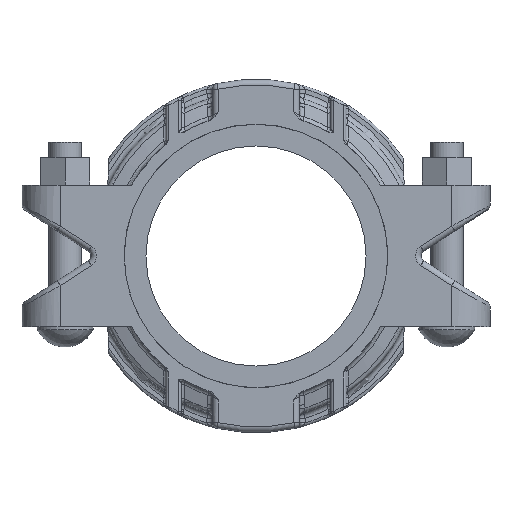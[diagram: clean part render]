
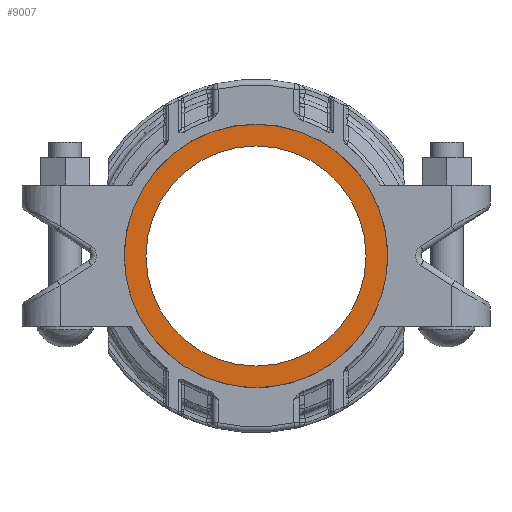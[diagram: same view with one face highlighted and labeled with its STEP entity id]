
A CAD part, top view. The second image highlights one B-rep face of the part: STEP entity #9007.
In plain terms, the highlighted planar face has unit normal (0, 0, 1).
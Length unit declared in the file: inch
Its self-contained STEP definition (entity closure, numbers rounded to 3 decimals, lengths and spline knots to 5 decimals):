
#1691=FACE_BOUND('',#2291,.T.);
#1710=FACE_OUTER_BOUND('',#2290,.T.);
#2290=EDGE_LOOP('',(#5630,#5631));
#2291=EDGE_LOOP('',(#5632));
#2886=CIRCLE('',#9608,2.53125);
#2887=CIRCLE('',#9610,3.0315);
#2888=CIRCLE('',#9611,3.0315);
#3475=VERTEX_POINT('',#13153);
#3476=VERTEX_POINT('',#13157);
#3477=VERTEX_POINT('',#13158);
#4269=EDGE_CURVE('',#3475,#3475,#2886,.T.);
#4270=EDGE_CURVE('',#3476,#3477,#2887,.T.);
#4271=EDGE_CURVE('',#3477,#3476,#2888,.T.);
#5630=ORIENTED_EDGE('',*,*,#4270,.F.);
#5631=ORIENTED_EDGE('',*,*,#4271,.F.);
#5632=ORIENTED_EDGE('',*,*,#4269,.T.);
#8341=PLANE('',#9609);
#9007=ADVANCED_FACE('',(#1710,#1691),#8341,.T.);
#9608=AXIS2_PLACEMENT_3D('',#13155,#10668,#10669);
#9609=AXIS2_PLACEMENT_3D('',#13156,#10670,#10671);
#9610=AXIS2_PLACEMENT_3D('',#13159,#10672,#10673);
#9611=AXIS2_PLACEMENT_3D('',#13160,#10674,#10675);
#10668=DIRECTION('center_axis',(0.,0.,-1.));
#10669=DIRECTION('ref_axis',(1.,0.,0.));
#10670=DIRECTION('center_axis',(0.,0.,1.));
#10671=DIRECTION('ref_axis',(-1.,0.,0.));
#10672=DIRECTION('center_axis',(0.,0.,-1.));
#10673=DIRECTION('ref_axis',(0.,-1.,0.));
#10674=DIRECTION('center_axis',(0.,0.,-1.));
#10675=DIRECTION('ref_axis',(0.,-1.,0.));
#13153=CARTESIAN_POINT('',(-2.53125,0.,0.0325));
#13155=CARTESIAN_POINT('Origin',(0.,0.,
0.0325));
#13156=CARTESIAN_POINT('Origin',(0.,0.,
0.0325));
#13157=CARTESIAN_POINT('',(-3.0315,0.,0.0325));
#13158=CARTESIAN_POINT('',(0.,3.0315,0.0325));
#13159=CARTESIAN_POINT('Origin',(0.,0.,
0.0325));
#13160=CARTESIAN_POINT('Origin',(0.,0.,
0.0325));
